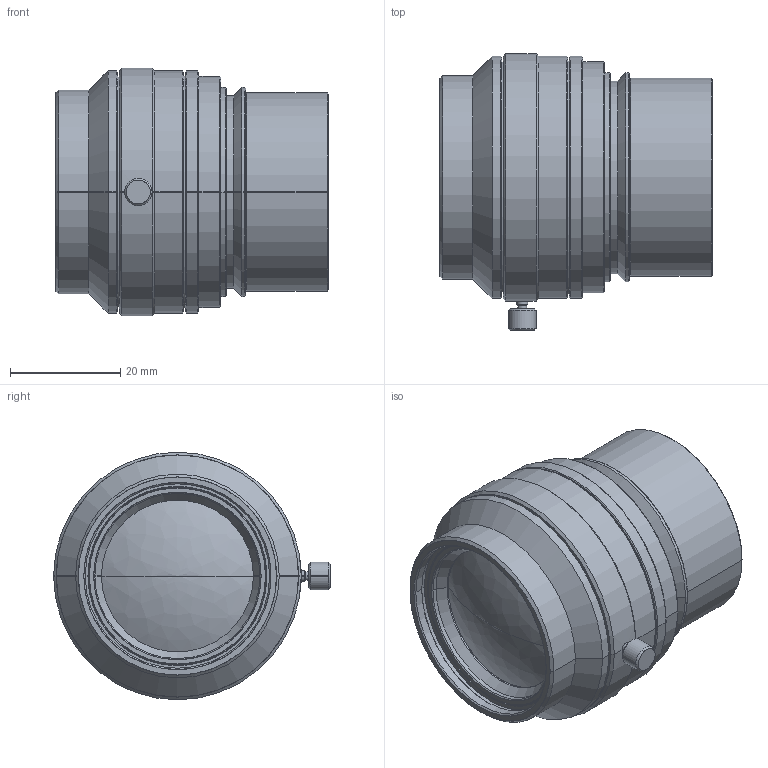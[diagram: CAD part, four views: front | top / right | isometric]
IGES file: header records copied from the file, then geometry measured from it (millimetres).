
Start section: SolidWorks IGES file using analytic representation for surfaces
Bounding box: 49.51 x 50.3 x 45 mm (x, y, z)
Surface area: 10698.3 mm2 (no closed solid volume)
Topology: 0 solids, 0 shells, 124 faces, 2352 edges, 2348 vertices
Faces by surface type: revolution 104, bspline 20
